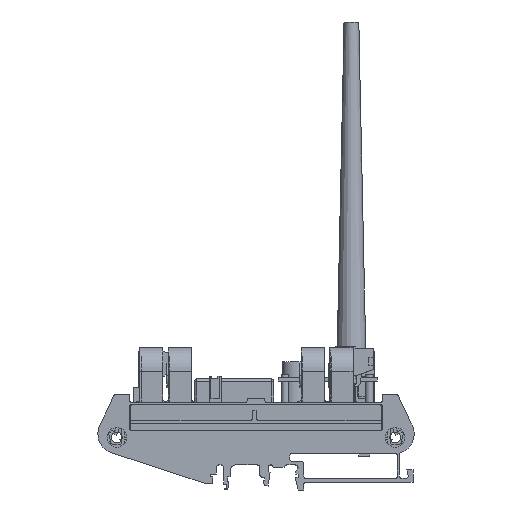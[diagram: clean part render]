
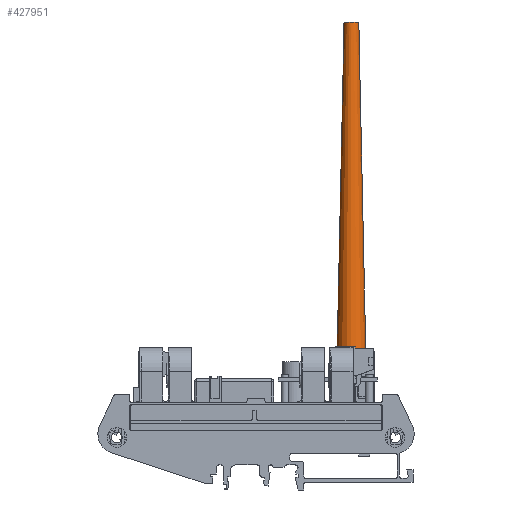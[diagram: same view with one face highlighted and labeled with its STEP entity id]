
A CAD part, left-side view. The second image highlights one B-rep face of the part: STEP entity #427951.
In plain terms, the highlighted conical face has half-angle 1.236 degrees and reference radius 6 mm.
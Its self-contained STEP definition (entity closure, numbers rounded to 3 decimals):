
#427951 = ADVANCED_FACE('',(#427952),#427965,.T.);
#427952 = FACE_BOUND('',#427953,.T.);
#427953 = EDGE_LOOP('',(#427954,#427988,#428011,#428038));
#427954 = ORIENTED_EDGE('',*,*,#427955,.F.);
#427955 = EDGE_CURVE('',#427956,#427956,#427958,.T.);
#427956 = VERTEX_POINT('',#427957);
#427957 = CARTESIAN_POINT('',(175.6,13.5,156.5));
#427958 = SURFACE_CURVE('',#427959,(#427964,#427976),.PCURVE_S1.);
#427959 = CIRCLE('',#427960,3.);
#427960 = AXIS2_PLACEMENT_3D('',#427961,#427962,#427963);
#427961 = CARTESIAN_POINT('',(172.6,13.5,156.5));
#427962 = DIRECTION('',(0.,0.,1.));
#427963 = DIRECTION('',(1.,0.,-0.));
#427964 = PCURVE('',#427965,#427970);
#427965 = CONICAL_SURFACE('',#427966,6.,0.022);
#427966 = AXIS2_PLACEMENT_3D('',#427967,#427968,#427969);
#427967 = CARTESIAN_POINT('',(172.6,13.5,17.5));
#427968 = DIRECTION('',(-0.,-0.,-1.));
#427969 = DIRECTION('',(1.,0.,0.));
#427970 = DEFINITIONAL_REPRESENTATION('',(#427971),#427975);
#427971 = LINE('',#427972,#427973);
#427972 = CARTESIAN_POINT('',(6.283,-139.));
#427973 = VECTOR('',#427974,1.);
#427974 = DIRECTION('',(-1.,0.));
#427975 = ( GEOMETRIC_REPRESENTATION_CONTEXT(2) 
PARAMETRIC_REPRESENTATION_CONTEXT() REPRESENTATION_CONTEXT('2D SPACE',''
  ) );
#427976 = PCURVE('',#427977,#427982);
#427977 = PLANE('',#427978);
#427978 = AXIS2_PLACEMENT_3D('',#427979,#427980,#427981);
#427979 = CARTESIAN_POINT('',(172.6,13.5,156.5));
#427980 = DIRECTION('',(0.,0.,1.));
#427981 = DIRECTION('',(1.,0.,-0.));
#427982 = DEFINITIONAL_REPRESENTATION('',(#427983),#427987);
#427983 = CIRCLE('',#427984,3.);
#427984 = AXIS2_PLACEMENT_2D('',#427985,#427986);
#427985 = CARTESIAN_POINT('',(0.,0.));
#427986 = DIRECTION('',(1.,0.));
#427987 = ( GEOMETRIC_REPRESENTATION_CONTEXT(2) 
PARAMETRIC_REPRESENTATION_CONTEXT() REPRESENTATION_CONTEXT('2D SPACE',''
  ) );
#427988 = ORIENTED_EDGE('',*,*,#427989,.F.);
#427989 = EDGE_CURVE('',#427990,#427956,#427992,.T.);
#427990 = VERTEX_POINT('',#427991);
#427991 = CARTESIAN_POINT('',(178.6,13.5,17.5));
#427992 = SEAM_CURVE('',#427993,(#427997,#428004),.PCURVE_S1.);
#427993 = LINE('',#427994,#427995);
#427994 = CARTESIAN_POINT('',(178.6,13.5,17.5));
#427995 = VECTOR('',#427996,1.);
#427996 = DIRECTION('',(-0.022,0.,1.));
#427997 = PCURVE('',#427965,#427998);
#427998 = DEFINITIONAL_REPRESENTATION('',(#427999),#428003);
#427999 = LINE('',#428000,#428001);
#428000 = CARTESIAN_POINT('',(6.283,0.));
#428001 = VECTOR('',#428002,1.);
#428002 = DIRECTION('',(-0.,-1.));
#428003 = ( GEOMETRIC_REPRESENTATION_CONTEXT(2) 
PARAMETRIC_REPRESENTATION_CONTEXT() REPRESENTATION_CONTEXT('2D SPACE',''
  ) );
#428004 = PCURVE('',#427965,#428005);
#428005 = DEFINITIONAL_REPRESENTATION('',(#428006),#428010);
#428006 = LINE('',#428007,#428008);
#428007 = CARTESIAN_POINT('',(0.,0.));
#428008 = VECTOR('',#428009,1.);
#428009 = DIRECTION('',(-0.,-1.));
#428010 = ( GEOMETRIC_REPRESENTATION_CONTEXT(2) 
PARAMETRIC_REPRESENTATION_CONTEXT() REPRESENTATION_CONTEXT('2D SPACE',''
  ) );
#428011 = ORIENTED_EDGE('',*,*,#428012,.T.);
#428012 = EDGE_CURVE('',#427990,#427990,#428013,.T.);
#428013 = SURFACE_CURVE('',#428014,(#428019,#428026),.PCURVE_S1.);
#428014 = CIRCLE('',#428015,6.);
#428015 = AXIS2_PLACEMENT_3D('',#428016,#428017,#428018);
#428016 = CARTESIAN_POINT('',(172.6,13.5,17.5));
#428017 = DIRECTION('',(0.,0.,1.));
#428018 = DIRECTION('',(1.,0.,-0.));
#428019 = PCURVE('',#427965,#428020);
#428020 = DEFINITIONAL_REPRESENTATION('',(#428021),#428025);
#428021 = LINE('',#428022,#428023);
#428022 = CARTESIAN_POINT('',(6.283,0.));
#428023 = VECTOR('',#428024,1.);
#428024 = DIRECTION('',(-1.,0.));
#428025 = ( GEOMETRIC_REPRESENTATION_CONTEXT(2) 
PARAMETRIC_REPRESENTATION_CONTEXT() REPRESENTATION_CONTEXT('2D SPACE',''
  ) );
#428026 = PCURVE('',#428027,#428032);
#428027 = PLANE('',#428028);
#428028 = AXIS2_PLACEMENT_3D('',#428029,#428030,#428031);
#428029 = CARTESIAN_POINT('',(172.6,13.5,17.5));
#428030 = DIRECTION('',(0.,0.,1.));
#428031 = DIRECTION('',(1.,0.,-0.));
#428032 = DEFINITIONAL_REPRESENTATION('',(#428033),#428037);
#428033 = CIRCLE('',#428034,6.);
#428034 = AXIS2_PLACEMENT_2D('',#428035,#428036);
#428035 = CARTESIAN_POINT('',(0.,0.));
#428036 = DIRECTION('',(1.,0.));
#428037 = ( GEOMETRIC_REPRESENTATION_CONTEXT(2) 
PARAMETRIC_REPRESENTATION_CONTEXT() REPRESENTATION_CONTEXT('2D SPACE',''
  ) );
#428038 = ORIENTED_EDGE('',*,*,#427989,.T.);
